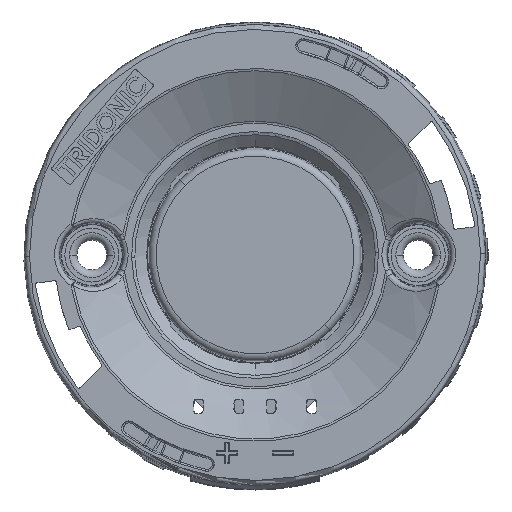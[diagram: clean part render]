
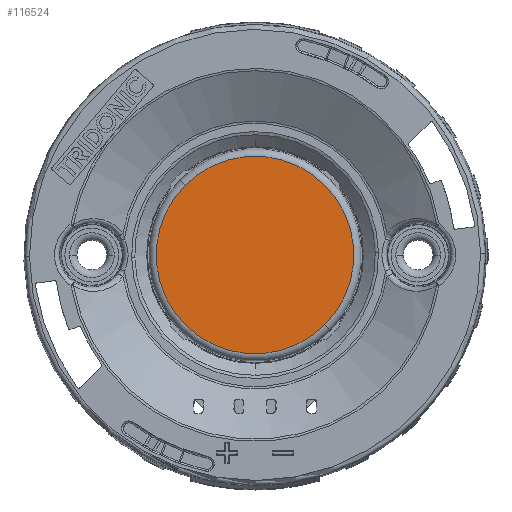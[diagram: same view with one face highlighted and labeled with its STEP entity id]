
A CAD part, top view. The second image highlights one B-rep face of the part: STEP entity #116524.
In plain terms, the highlighted planar face has unit normal (0, 0, 1).
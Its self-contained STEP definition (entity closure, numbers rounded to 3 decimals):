
#114175=CARTESIAN_POINT('',(0.,0.,1.8));
#114176=DIRECTION('',(0.,0.,1.));
#114177=DIRECTION('',(1.,0.,0.));
#114178=AXIS2_PLACEMENT_3D('',#114175,#114176,#114177);
#114183=CARTESIAN_POINT('',(0.,0.,1.8));
#114184=DIRECTION('',(0.,0.,1.));
#114185=DIRECTION('',(-1.,0.,0.));
#114186=AXIS2_PLACEMENT_3D('',#114183,#114184,#114185);
#114456=CARTESIAN_POINT('',(10.6,0.,1.8));
#114457=CARTESIAN_POINT('',(-10.6,0.,1.8));
#114458=VERTEX_POINT('',#114456);
#114459=VERTEX_POINT('',#114457);
#116515=CARTESIAN_POINT('',(0.,0.,1.8));
#116516=DIRECTION('',(0.,0.,1.));
#116517=DIRECTION('',(1.,0.,0.));
#116518=AXIS2_PLACEMENT_3D('',#116515,#116516,#116517);
#116519=PLANE('',#116518);
#116520=ORIENTED_EDGE('',*,*,#116481,.F.);
#116521=ORIENTED_EDGE('',*,*,#116501,.F.);
#116522=EDGE_LOOP('',(#116520,#116521));
#116523=FACE_OUTER_BOUND('',#116522,.F.);
#114179=CIRCLE('',#114178,10.6);
#114187=CIRCLE('',#114186,10.6);
#116481=EDGE_CURVE('',#114458,#114459,#114179,.T.);
#116501=EDGE_CURVE('',#114459,#114458,#114187,.T.);
#116524=ADVANCED_FACE('',(#116523),#116519,.T.);
